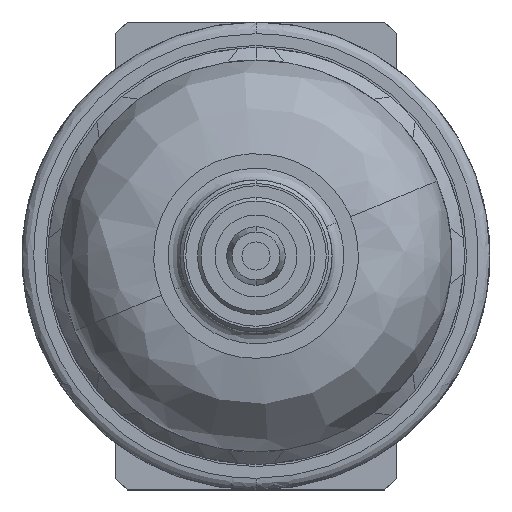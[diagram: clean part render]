
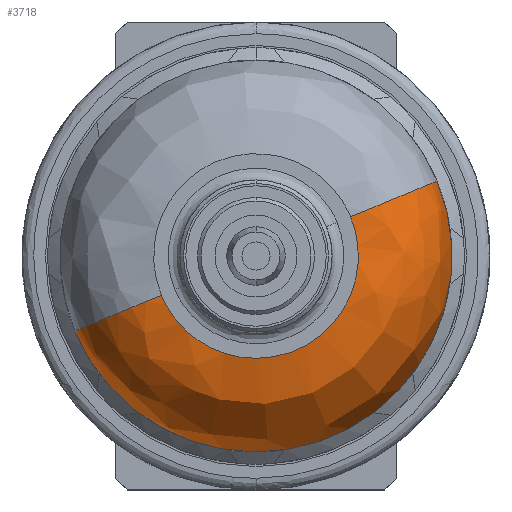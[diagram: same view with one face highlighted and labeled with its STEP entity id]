
A CAD part, front view. The second image highlights one B-rep face of the part: STEP entity #3718.
In plain terms, the highlighted free-form (B-spline) face has degree [3, 3] with [4, 4] control points.
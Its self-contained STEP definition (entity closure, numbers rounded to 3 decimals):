
#136 = FACE_OUTER_BOUND ( 'NONE', #3372, .T. ) ;
#187 = CARTESIAN_POINT ( 'NONE',  ( 0., -47., 0. ) ) ;
#249 = VERTEX_POINT ( 'NONE', #6170 ) ;
#261 = ORIENTED_EDGE ( 'NONE', *, *, #3198, .T. ) ;
#298 = CARTESIAN_POINT ( 'NONE',  ( -12.414, -55., -5.142 ) ) ;
#299 = EDGE_CURVE ( 'NONE', #249, #1379, #1509, .T. ) ;
#314 = CARTESIAN_POINT ( 'NONE',  ( -2.655, -51.686, -37.36 ) ) ;
#534 = CARTESIAN_POINT ( 'NONE',  ( 0., -47., 0. ) ) ;
#718 = CARTESIAN_POINT ( 'NONE',  ( -1.387, -55., -19.516 ) ) ;
#763 = CARTESIAN_POINT ( 'NONE',  ( -2.13, -55., -29.969 ) ) ;
#843 = DIRECTION ( 'NONE',  ( 0.924, 0., 0.383 ) ) ;
#1369 = CARTESIAN_POINT ( 'NONE',  ( 15.475, -47., 6.41 ) ) ;
#1379 = VERTEX_POINT ( 'NONE', #1625 ) ;
#1410 = CARTESIAN_POINT ( 'NONE',  ( -2.655, -47., -37.36 ) ) ;
#1443 = VERTEX_POINT ( 'NONE', #3456 ) ;
#1509 = CIRCLE ( 'NONE', #1531, 8. ) ;
#1531 = AXIS2_PLACEMENT_3D ( 'NONE', #5237, #4771, #3889 ) ;
#1625 = CARTESIAN_POINT ( 'NONE',  ( -15.475, -47., -6.41 ) ) ;
#1698 = AXIS2_PLACEMENT_3D ( 'NONE', #534, #4332, #2955 ) ;
#1707 = CARTESIAN_POINT ( 'NONE',  ( -8.084, -55., -3.348 ) ) ;
#1730 = CARTESIAN_POINT ( 'NONE',  ( 28.295, -51.686, -24.54 ) ) ;
#2298 = CIRCLE ( 'NONE', #4759, 16.75 ) ;
#2638 = VERTEX_POINT ( 'NONE', #4989 ) ;
#2647 = ORIENTED_EDGE ( 'NONE', *, *, #3766, .F. ) ;
#2677 = CARTESIAN_POINT ( 'NONE',  ( -8.084, -55., -3.348 ) ) ;
#2683 = CARTESIAN_POINT ( 'NONE',  ( 15.475, -47., 6.41 ) ) ;
#2720 = CARTESIAN_POINT ( 'NONE',  ( -15.475, -51.686, -6.41 ) ) ;
#2955 = DIRECTION ( 'NONE',  ( 0., 0., 1. ) ) ;
#3005 = EDGE_CURVE ( 'NONE', #5613, #2638, #3339, .T. ) ;
#3037 = ORIENTED_EDGE ( 'NONE', *, *, #3005, .F. ) ;
#3156 = CARTESIAN_POINT ( 'NONE',  ( 8.084, -55., 3.348 ) ) ;
#3183 = CARTESIAN_POINT ( 'NONE',  ( 22.697, -55., -19.685 ) ) ;
#3198 = EDGE_CURVE ( 'NONE', #1443, #249, #5777, .T. ) ;
#3259 = CARTESIAN_POINT ( 'NONE',  ( 15.475, -51.686, 6.41 ) ) ;
#3339 = CIRCLE ( 'NONE', #1698, 16.75 ) ;
#3372 = EDGE_LOOP ( 'NONE', ( #2647, #261, #5071, #5304, #3037 ) ) ;
#3456 = CARTESIAN_POINT ( 'NONE',  ( 8.084, -55., 3.348 ) ) ;
#3573 = CARTESIAN_POINT ( 'NONE',  ( 14.781, -55., -12.819 ) ) ;
#3718 = ADVANCED_FACE ( 'NONE', ( #136 ), #4595, .T. ) ;
#3727 = CARTESIAN_POINT ( 'NONE',  ( 28.295, -47., -24.54 ) ) ;
#3766 = EDGE_CURVE ( 'NONE', #1443, #5613, #4890, .T. ) ;
#3791 = CARTESIAN_POINT ( 'NONE',  ( 8.084, -47., 3.348 ) ) ;
#3889 = DIRECTION ( 'NONE',  ( -0.924, 0., -0.383 ) ) ;
#4017 = DIRECTION ( 'NONE',  ( 0., 1., 0. ) ) ;
#4106 = CARTESIAN_POINT ( 'NONE',  ( 12.414, -55., 5.142 ) ) ;
#4150 = CARTESIAN_POINT ( 'NONE',  ( 14.781, -55., -12.819 ) ) ;
#4332 = DIRECTION ( 'NONE',  ( 0., 1., 0. ) ) ;
#4595 =( BOUNDED_SURFACE ( )  B_SPLINE_SURFACE ( 3, 3, ( 
 ( #2677, #5997, #4150, #3156 ),
 ( #298, #763, #3183, #4106 ),
 ( #2720, #314, #1730, #3259 ),
 ( #4713, #1410, #3727, #1369 ) ),
 .UNSPECIFIED., .F., .F., .F. ) 
 B_SPLINE_SURFACE_WITH_KNOTS ( ( 4, 4 ),
 ( 4, 4 ),
 ( 0., 1. ),
 ( 0., 1. ),
 .UNSPECIFIED. ) 
 GEOMETRIC_REPRESENTATION_ITEM ( )  RATIONAL_B_SPLINE_SURFACE ( (
 ( 1., 0.333, 0.333, 1.),
 ( 0.805, 0.268, 0.268, 0.805),
 ( 0.805, 0.268, 0.268, 0.805),
 ( 1., 0.333, 0.333, 1.) ) ) 
 REPRESENTATION_ITEM ( '' )  SURFACE ( )  );
#4713 = CARTESIAN_POINT ( 'NONE',  ( -15.475, -47., -6.41 ) ) ;
#4759 = AXIS2_PLACEMENT_3D ( 'NONE', #187, #4017, #4895 ) ;
#4771 = DIRECTION ( 'NONE',  ( 0.383, 0., -0.924 ) ) ;
#4890 = CIRCLE ( 'NONE', #5790, 8. ) ;
#4895 = DIRECTION ( 'NONE',  ( 0., 0., 1. ) ) ;
#4989 = CARTESIAN_POINT ( 'NONE',  ( 0., -47., -16.75 ) ) ;
#5071 = ORIENTED_EDGE ( 'NONE', *, *, #299, .T. ) ;
#5123 = EDGE_CURVE ( 'NONE', #2638, #1379, #2298, .T. ) ;
#5237 = CARTESIAN_POINT ( 'NONE',  ( -8.084, -47., -3.348 ) ) ;
#5304 = ORIENTED_EDGE ( 'NONE', *, *, #5123, .F. ) ;
#5613 = VERTEX_POINT ( 'NONE', #2683 ) ;
#5777 =( BOUNDED_CURVE ( )  B_SPLINE_CURVE ( 3, ( #5942, #3573, #718, #1707 ),
 .UNSPECIFIED., .F., .F. ) 
 B_SPLINE_CURVE_WITH_KNOTS ( ( 4, 4 ),
 ( 0., 1. ),
 .UNSPECIFIED. ) 
 CURVE ( )  GEOMETRIC_REPRESENTATION_ITEM ( )  RATIONAL_B_SPLINE_CURVE ( ( 1., 0.333, 0.333, 1. ) ) 
 REPRESENTATION_ITEM ( '' )  );
#5790 = AXIS2_PLACEMENT_3D ( 'NONE', #3791, #6085, #843 ) ;
#5942 = CARTESIAN_POINT ( 'NONE',  ( 8.084, -55., 3.348 ) ) ;
#5997 = CARTESIAN_POINT ( 'NONE',  ( -1.387, -55., -19.516 ) ) ;
#6085 = DIRECTION ( 'NONE',  ( -0.383, 0., 0.924 ) ) ;
#6170 = CARTESIAN_POINT ( 'NONE',  ( -8.084, -55., -3.348 ) ) ;
